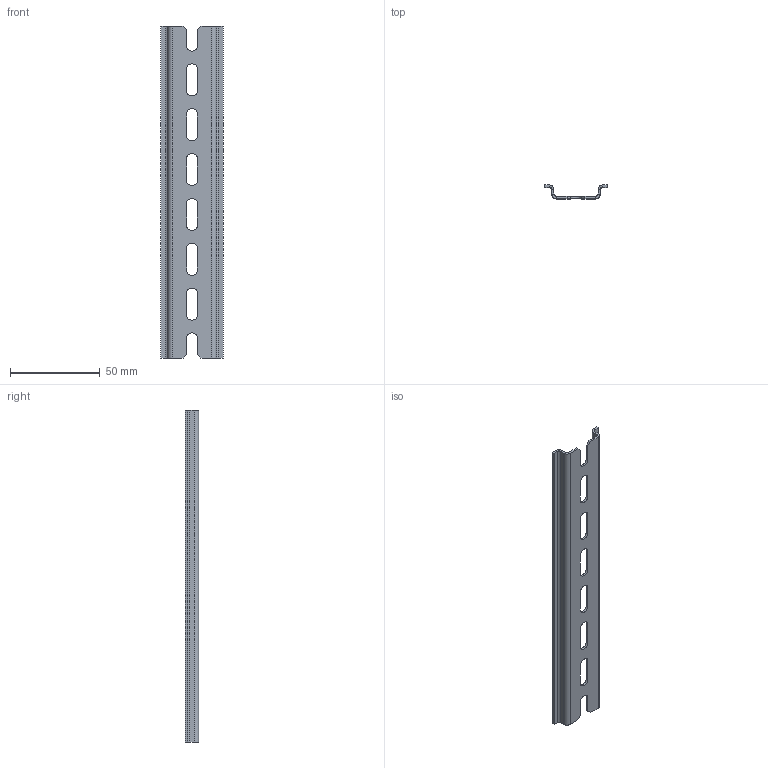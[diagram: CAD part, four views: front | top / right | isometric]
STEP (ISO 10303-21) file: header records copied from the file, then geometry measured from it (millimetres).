
FILE_DESCRIPTION (( 'STEP AP214' ), '1' );
FILE_NAME ('DR 07.185 DIN-ðåéêà.STEP', '2022-09-12T11:19:42', ( '' ), ( '' ), 'SwSTEP 2.0', 'SolidWorks 2018', '' );
FILE_SCHEMA (( 'AUTOMOTIVE_DESIGN' ));
Length unit declared in the file: millimetre
Products named in the file (1): DR 07.185 DIN-ðåéêà
Bounding box: 34.8 x 7.5 x 185 mm (x, y, z)
Volume: 8912.9 mm3; surface area: 15769 mm2
Topology: 1 solids, 1 shells, 81 faces, 205 edges, 126 vertices
Faces by surface type: plane 52, cylinder 29
Entity records: 2459 total; most frequent: DIRECTION 427, CARTESIAN_POINT 413, ORIENTED_EDGE 410, EDGE_CURVE 205, VECTOR 147, LINE 147, AXIS2_PLACEMENT_3D 140, VERTEX_POINT 126
